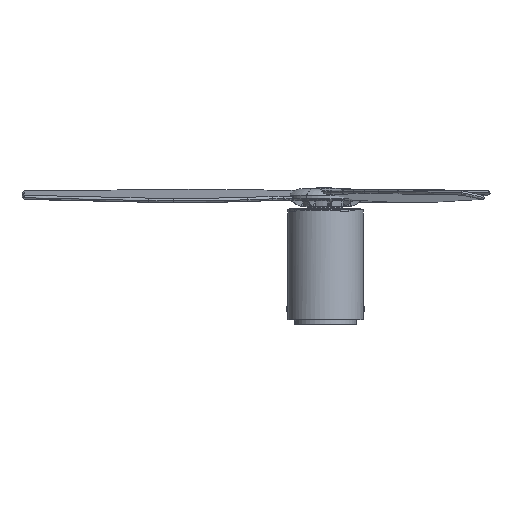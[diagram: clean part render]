
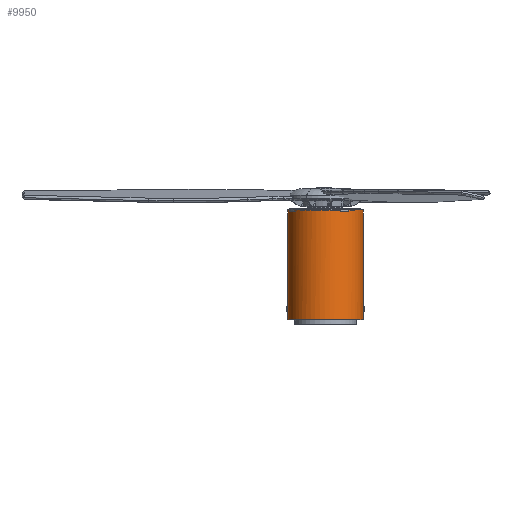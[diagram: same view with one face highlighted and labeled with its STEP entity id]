
A CAD part, left-side view. The second image highlights one B-rep face of the part: STEP entity #9950.
In plain terms, the highlighted cylindrical face has radius 80 mm (diameter 159.999 mm), a partial arc.
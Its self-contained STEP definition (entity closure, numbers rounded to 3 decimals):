
#1020=FACE_OUTER_BOUND('',#1682,.T.);
#1682=EDGE_LOOP('',(#8522,#8523,#8524,#8525));
#2252=B_SPLINE_CURVE_WITH_KNOTS('',3,(#20355,#20356,#20357,#20358,#20359,
#20360,#20361,#20362,#20363,#20364,#20365),.UNSPECIFIED.,.F.,.F.,(4,1,1,
1,1,1,1,1,4),(0.,0.125,0.25,0.375,0.5,0.625,0.75,0.875,1.),
 .UNSPECIFIED.);
#2299=B_SPLINE_CURVE_WITH_KNOTS('',3,(#20964,#20965,#20966,#20967,#20968,
#20969,#20970,#20971,#20972,#20973,#20974),.UNSPECIFIED.,.F.,.F.,(4,1,1,
1,1,1,1,1,4),(0.,0.125,0.25,0.375,0.5,0.625,0.75,0.875,1.),
 .UNSPECIFIED.);
#3243=LINE('',#20976,#3725);
#3244=LINE('',#20977,#3726);
#3725=VECTOR('',#12751,304.8);
#3726=VECTOR('',#12752,304.8);
#4501=VERTEX_POINT('',#20208);
#4502=VERTEX_POINT('',#20209);
#4547=VERTEX_POINT('',#20846);
#4548=VERTEX_POINT('',#20899);
#5852=EDGE_CURVE('',#4502,#4501,#2252,.T.);
#5905=EDGE_CURVE('',#4547,#4548,#2299,.T.);
#5906=EDGE_CURVE('',#4501,#4547,#3243,.T.);
#5907=EDGE_CURVE('',#4548,#4502,#3244,.T.);
#8522=ORIENTED_EDGE('',*,*,#5905,.T.);
#8523=ORIENTED_EDGE('',*,*,#5907,.T.);
#8524=ORIENTED_EDGE('',*,*,#5852,.T.);
#8525=ORIENTED_EDGE('',*,*,#5906,.T.);
#9463=CYLINDRICAL_SURFACE('',#10808,80.);
#9950=ADVANCED_FACE('',(#1020),#9463,.T.);
#10808=AXIS2_PLACEMENT_3D('',#20978,#12753,#12754);
#12751=DIRECTION('',(0.,0.,1.));
#12752=DIRECTION('',(0.,0.,-1.));
#12753=DIRECTION('center_axis',(0.,0.,1.));
#12754=DIRECTION('ref_axis',(0.,1.,0.));
#20208=CARTESIAN_POINT('',(0.,-80.,10.169));
#20209=CARTESIAN_POINT('',(0.,80.,10.169));
#20355=CARTESIAN_POINT('Ctrl Pts',(0.,80.,10.169));
#20356=CARTESIAN_POINT('Ctrl Pts',(-10.514,80.105,10.169));
#20357=CARTESIAN_POINT('Ctrl Pts',(-31.391,75.785,10.169));
#20358=CARTESIAN_POINT('Ctrl Pts',(-58.046,58.054,10.169));
#20359=CARTESIAN_POINT('Ctrl Pts',(-75.833,31.408,10.169));
#20360=CARTESIAN_POINT('Ctrl Pts',(-82.083,0.,
10.169));
#20361=CARTESIAN_POINT('Ctrl Pts',(-75.833,-31.408,
10.169));
#20362=CARTESIAN_POINT('Ctrl Pts',(-58.046,-58.054,
10.169));
#20363=CARTESIAN_POINT('Ctrl Pts',(-31.391,-75.785,
10.169));
#20364=CARTESIAN_POINT('Ctrl Pts',(-10.514,-80.105,10.169));
#20365=CARTESIAN_POINT('Ctrl Pts',(0.,-80.,
10.169));
#20846=CARTESIAN_POINT('',(0.,-80.,242.614));
#20899=CARTESIAN_POINT('',(0.,80.,242.614));
#20964=CARTESIAN_POINT('Ctrl Pts',(0.,-80.,
242.614));
#20965=CARTESIAN_POINT('Ctrl Pts',(-10.514,-80.105,
242.614));
#20966=CARTESIAN_POINT('Ctrl Pts',(-31.391,-75.785,
242.614));
#20967=CARTESIAN_POINT('Ctrl Pts',(-58.046,-58.054,
242.614));
#20968=CARTESIAN_POINT('Ctrl Pts',(-75.833,-31.408,
242.614));
#20969=CARTESIAN_POINT('Ctrl Pts',(-82.083,0.,
242.614));
#20970=CARTESIAN_POINT('Ctrl Pts',(-75.833,31.408,242.614));
#20971=CARTESIAN_POINT('Ctrl Pts',(-58.046,58.054,242.614));
#20972=CARTESIAN_POINT('Ctrl Pts',(-31.391,75.785,242.614));
#20973=CARTESIAN_POINT('Ctrl Pts',(-10.514,80.105,242.614));
#20974=CARTESIAN_POINT('Ctrl Pts',(0.,80.,
242.614));
#20976=CARTESIAN_POINT('',(0.,-80.,10.169));
#20977=CARTESIAN_POINT('',(0.,80.,242.614));
#20978=CARTESIAN_POINT('Origin',(0.,0.,1792.792));
